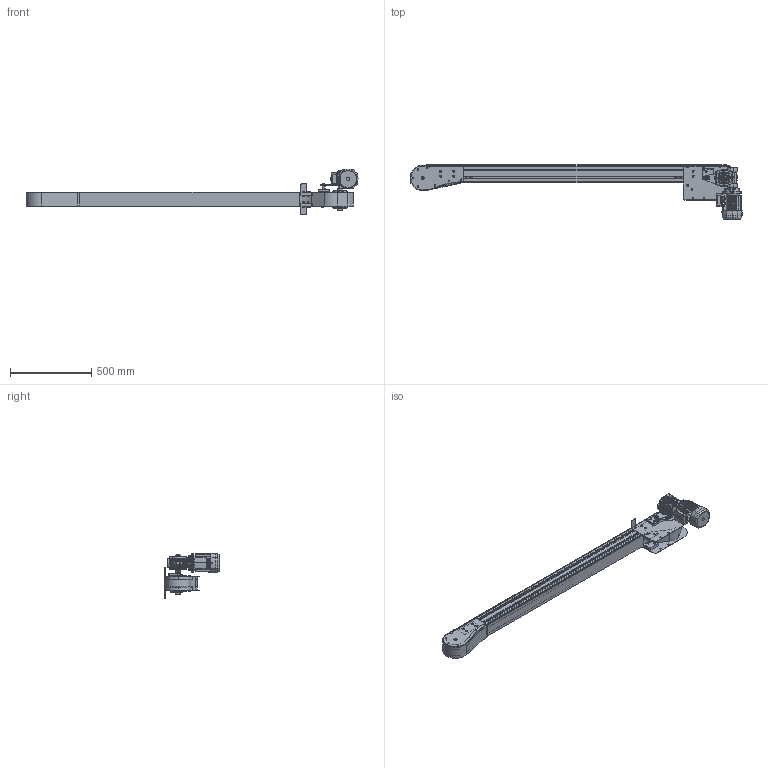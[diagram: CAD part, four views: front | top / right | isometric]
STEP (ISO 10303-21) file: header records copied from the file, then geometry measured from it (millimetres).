
FILE_DESCRIPTION (( 'STEP AP203' ), '1' );
FILE_NAME ('NASTRO_CATENA.step', '2026-04-29T13:52:44', ( 'Utente Windows' ), ( '' ), 'SwSTEP 2.0', 'SolidWorks 2024', '' );
FILE_SCHEMA (( 'CONFIG_CONTROL_DESIGN' ));
Length unit declared in the file: millimetre
Products named in the file (46): 663151_NS880T12R25; 2000.001.002; 084.808.004; 2000.325.003; CH05P_DX; GRANI A PUNTA PIATTA UNI 5923_M8x20 UNI 5923; 2000.882.750; RONDELLE FASCIA LARGA UNI 6593 INOX_8.4x32 UNI 6593 INOX; 2000.325.201-1S; K325_DIR_49_P_DX_MOTORE A DESTRA; 2000.001.006-2; 2000.001.201-3; 2000.325.104-2; CATENA_DIRITTO; VITI TE UNI 5739 INOX_M8x16 UNI 5739 INOX; 2000.001.212; 084.312.006; VITI TE UNI 5739 INOX_M6x30 UNI 5739 INOX; 2000.001.004-3; 2000.001.213; VITI TCEI UNI 5931 INOX_M6x30 UNI 5931 INOX; K325_1_Default<A macchina>; GRANI A PUNTA CONICA UNI 5927_M8x16 UNI 5927; 2000.325.204-4; 2000.001.202-3; CHIAVETTE_A 8x7x50 UNI 6604-69; DADI ESAGONALI AUTOBLOCCANTI UNI 7473 INOX_M6 UNI 7473 INOX; PU008.012.025N; 2000.325.001_Default<Lavorato>; 2000.001.003-3; PROFILO POLIZENE_209<A macchina>; 2000.325.105-2; 2000.325.103; K325_R_P; 2000.325.205-4; VITI TE UNI 5739 INOX_M8x20 UNI 5739 INOX; VITI TSEI UNI 5933 INOX_0410UNI5933A2; 084.802.027; RONDELLE FASCIA LARGA UNI 6593 INOX_8.4x24 UNI 6593 INOX; 2000.001.001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
Assembly tree (95 placements, depth 4):
  NASTRO_CATENA
    K325_1_Default<A macchina>
    K325_DIR_49_P_DX_MOTORE A DESTRA
      084.802.027
      2000.001.006-2  x2
      2000.325.003  x2
      2000.325.103
      2000.001.001  x2
      2000.325.001_Default<Lavorato>  x2
      084.808.004
      2000.325.104-2
      2000.001.004-3
      2000.001.011
      2000.325.105-2
      2000.001.003-3
      CHIAVETTE_A 8x7x70 UNI 6604-69
      CHIAVETTE_A 8x7x50 UNI 6604-69
      SBPF205  x2
      663151_NS880T12R25
      VITI TSEI UNI 5933 INOX_0410UNI5933A2  x8
      GRANI A PUNTA CONICA UNI 5927_M8x16 UNI 5927  x8
      VITI TCEI UNI 5931 INOX_M6x30 UNI 5931 INOX  x2
      VITI TE UNI 5739 INOX_M8x20 UNI 5739 INOX
      RONDELLE FASCIA LARGA UNI 6593 INOX_8.4x32 UNI 6593 INOX
      GRANI A PUNTA PIATTA UNI 5923_M8x20 UNI 5923
      RONDELLE FASCIA LARGA UNI 6593 INOX_8.4x24 UNI 6593 INOX
      VITI TE UNI 5739 INOX_M8x16 UNI 5739 INOX  x7
      DADI ESAGONALI AUTOBLOCCANTI UNI 7473 INOX_M6 UNI 7473 INOX  x4
      084.312.006  x6
      PU008.012.025N
      VITI TE UNI 5739 INOX_M6x30 UNI 5739 INOX  x4
      VITI TE UNI 5739 INOX_M6x20 UNI 5739 INOX  x6
    K325_R_P
      2000.001.201-3
      2000.001.202-3
      PROFILO POLIZENE_209<A macchina>  x2
      2000.325.201-1S
      2000.325.205-4
      2000.325.204-4
      2000.001.002  x2
      2000.001.001  x2
      2000.325.001_Default<Lavorato>  x2
      2000.001.213
        2000.001.212  x2
        0630UNI8735  x2
    CH05P_DX
    CATENA_DIRITTO
    2000.882.750
Bounding box: 2039.76 x 335.1 x 282.31 mm (x, y, z)
Volume: 11089535.3 mm3; surface area: 4329836.6 mm2
Topology: 93 solids, 102 shells, 4681 faces, 11769 edges, 7282 vertices
Faces by surface type: plane 1909, cylinder 1620, cone 555, bspline 388, torus 209
Entity records: 127218 total; most frequent: CARTESIAN_POINT 41115, DIRECTION 16882, ORIENTED_EDGE 16730, EDGE_CURVE 8376, AXIS2_PLACEMENT_3D 6404, VERTEX_POINT 5200, LINE 4074, VECTOR 4074
